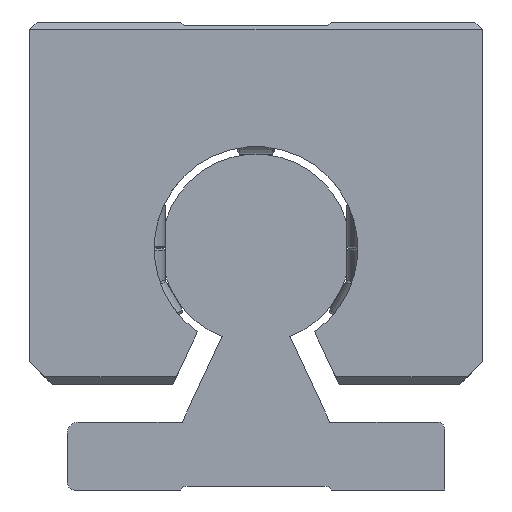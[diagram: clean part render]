
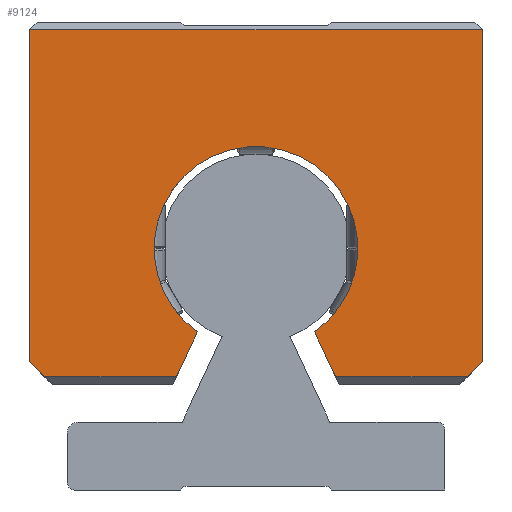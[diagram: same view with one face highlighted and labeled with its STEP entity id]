
A CAD part, left-side view. The second image highlights one B-rep face of the part: STEP entity #9124.
In plain terms, the highlighted planar face has unit normal (-1, 0, 0).
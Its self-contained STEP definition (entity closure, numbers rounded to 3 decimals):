
#7661=CARTESIAN_POINT('',(267.581,-30.,61.));
#7662=VERTEX_POINT('',#7661);
#7671=CARTESIAN_POINT('',(267.581,-30.,17.));
#7672=VERTEX_POINT('',#7671);
#7673=CARTESIAN_POINT('',(267.581,-30.,61.));
#7674=DIRECTION('',(0.0,0.0,-1.0));
#7675=VECTOR('',#7674,44.);
#7676=LINE('',#7673,#7675);
#7677=EDGE_CURVE('',#7662,#7672,#7676,.T.);
#7914=CARTESIAN_POINT('',(267.581,-7.758,20.952));
#7915=VERTEX_POINT('',#7914);
#7922=CARTESIAN_POINT('',(267.581,7.758,20.952));
#7923=VERTEX_POINT('',#7922);
#7924=CARTESIAN_POINT('',(267.581,0.,32.0));
#7925=DIRECTION('',(-1.0,0.0,0.0));
#7926=DIRECTION('',(0.0,-1.0,0.0));
#7927=AXIS2_PLACEMENT_3D('',#7924,#7925,#7926);
#7928=CIRCLE('',#7927,13.5);
#7929=EDGE_CURVE('',#7915,#7923,#7928,.T.);
#8746=CARTESIAN_POINT('',(267.581,30.,61.));
#8747=VERTEX_POINT('',#8746);
#8754=CARTESIAN_POINT('',(267.581,30.,61.));
#8755=DIRECTION('',(0.0,-1.0,0.0));
#8756=VECTOR('',#8755,60.0);
#8757=LINE('',#8754,#8756);
#8758=EDGE_CURVE('',#8747,#7662,#8757,.T.);
#8768=CARTESIAN_POINT('',(267.581,28.,15.));
#8769=VERTEX_POINT('',#8768);
#8786=CARTESIAN_POINT('',(267.581,10.534,15.));
#8787=VERTEX_POINT('',#8786);
#8794=CARTESIAN_POINT('',(267.581,10.534,15.));
#8795=DIRECTION('',(0.0,1.0,0.0));
#8796=VECTOR('',#8795,17.466);
#8797=LINE('',#8794,#8796);
#8798=EDGE_CURVE('',#8787,#8769,#8797,.T.);
#8860=CARTESIAN_POINT('',(267.581,30.,17.));
#8861=VERTEX_POINT('',#8860);
#8862=CARTESIAN_POINT('',(267.581,28.,15.));
#8863=DIRECTION('',(0.0,0.707,0.707));
#8864=VECTOR('',#8863,2.828);
#8865=LINE('',#8862,#8864);
#8866=EDGE_CURVE('',#8769,#8861,#8865,.T.);
#9050=CARTESIAN_POINT('',(267.581,-28.,15.));
#9051=VERTEX_POINT('',#9050);
#9052=CARTESIAN_POINT('',(267.581,-30.,17.));
#9053=DIRECTION('',(0.0,0.707,-0.707));
#9054=VECTOR('',#9053,2.828);
#9055=LINE('',#9052,#9054);
#9056=EDGE_CURVE('',#7672,#9051,#9055,.T.);
#9074=CARTESIAN_POINT('',(267.581,-10.534,15.));
#9075=VERTEX_POINT('',#9074);
#9076=CARTESIAN_POINT('',(267.581,-28.,15.));
#9077=DIRECTION('',(0.0,1.0,0.0));
#9078=VECTOR('',#9077,17.466);
#9079=LINE('',#9076,#9078);
#9080=EDGE_CURVE('',#9051,#9075,#9079,.T.);
#9092=CARTESIAN_POINT('',(267.581,-20.,61.75));
#9093=DIRECTION('',(1.0,0.0,0.0));
#9094=DIRECTION('',(0.0,0.0,-1.0));
#9095=AXIS2_PLACEMENT_3D('',#9092,#9093,#9094);
#9096=PLANE('',#9095);
#9097=ORIENTED_EDGE('',*,*,#8798,.F.);
#9098=CARTESIAN_POINT('',(267.581,7.758,20.952));
#9099=DIRECTION('',(0.0,0.423,-0.906));
#9100=VECTOR('',#9099,6.567);
#9101=LINE('',#9098,#9100);
#9102=EDGE_CURVE('',#7923,#8787,#9101,.T.);
#9103=ORIENTED_EDGE('',*,*,#9102,.F.);
#9104=ORIENTED_EDGE('',*,*,#7929,.F.);
#9105=CARTESIAN_POINT('',(267.581,-10.534,15.));
#9106=DIRECTION('',(0.0,0.423,0.906));
#9107=VECTOR('',#9106,6.567);
#9108=LINE('',#9105,#9107);
#9109=EDGE_CURVE('',#9075,#7915,#9108,.T.);
#9110=ORIENTED_EDGE('',*,*,#9109,.F.);
#9111=ORIENTED_EDGE('',*,*,#9080,.F.);
#9112=ORIENTED_EDGE('',*,*,#9056,.F.);
#9113=ORIENTED_EDGE('',*,*,#7677,.F.);
#9114=ORIENTED_EDGE('',*,*,#8758,.F.);
#9115=CARTESIAN_POINT('',(267.581,30.,17.));
#9116=DIRECTION('',(0.0,0.0,1.0));
#9117=VECTOR('',#9116,44.);
#9118=LINE('',#9115,#9117);
#9119=EDGE_CURVE('',#8861,#8747,#9118,.T.);
#9120=ORIENTED_EDGE('',*,*,#9119,.F.);
#9121=ORIENTED_EDGE('',*,*,#8866,.F.);
#9122=EDGE_LOOP('',(#9097,#9103,#9104,#9110,#9111,#9112,#9113,#9114,#9120,#9121));
#9123=FACE_OUTER_BOUND('',#9122,.T.);
#9124=ADVANCED_FACE('',(#9123),#9096,.F.);
